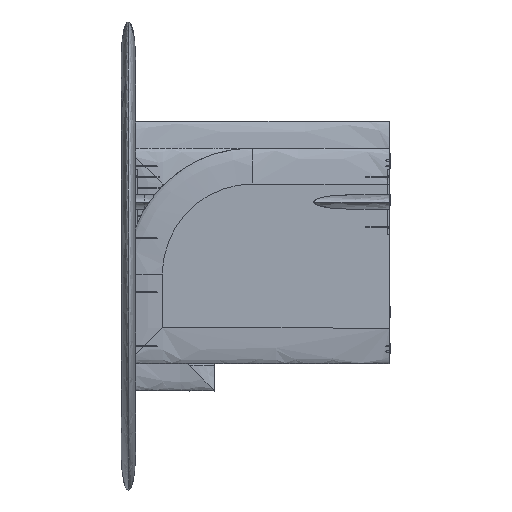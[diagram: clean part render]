
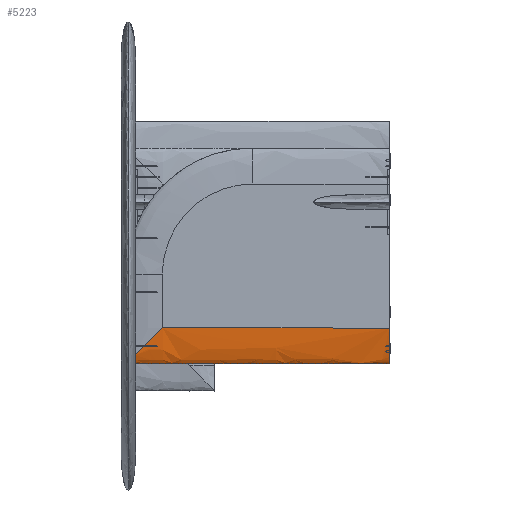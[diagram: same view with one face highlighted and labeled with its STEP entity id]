
A CAD part, left-side view. The second image highlights one B-rep face of the part: STEP entity #5223.
In plain terms, the highlighted free-form (B-spline) face has degree [3, 1] with [4, 2] control points.
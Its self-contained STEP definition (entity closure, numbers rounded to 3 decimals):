
#468 = CARTESIAN_POINT ( 'NONE',  ( 231.098, 689.464, -409.464 ) ) ;
#536 = CARTESIAN_POINT ( 'NONE',  ( 235., 705., -350. ) ) ;
#838 = VERTEX_POINT ( 'NONE', #9070 ) ;
#1027 = CARTESIAN_POINT ( 'NONE',  ( 234.403, 655.071, -375.071 ) ) ;
#1131 = CARTESIAN_POINT ( 'NONE',  ( 195.148, 642.537, -362.537 ) ) ;
#1180 = CARTESIAN_POINT ( 'NONE',  ( 195., 0., -350. ) ) ;
#1596 = EDGE_CURVE ( 'NONE', #20993, #16800, #16011, .T. ) ;
#1773 = CARTESIAN_POINT ( 'NONE',  ( 195.002, 631.568, -351.568 ) ) ;
#2212 = CARTESIAN_POINT ( 'NONE',  ( 235., 0., -550. ) ) ;
#2554 = CARTESIAN_POINT ( 'NONE',  ( 232.989, 673.85, -393.85 ) ) ;
#2936 = CARTESIAN_POINT ( 'NONE',  ( 201.771, 705., -425. ) ) ;
#3102 = CARTESIAN_POINT ( 'NONE',  ( 235., 630., -350. ) ) ;
#3208 = CARTESIAN_POINT ( 'NONE',  ( 195.015, 633.919, -353.919 ) ) ;
#3223 = EDGE_CURVE ( 'NONE', #16800, #20659, #9558, .T. ) ;
#3866 = CARTESIAN_POINT ( 'NONE',  ( 198.902, 689.464, -409.464 ) ) ;
#4286 = ORIENTED_EDGE ( 'NONE', *, *, #4849, .T. ) ;
#4399 = CARTESIAN_POINT ( 'NONE',  ( 201.771, 705., -425. ) ) ;
#4672 = CARTESIAN_POINT ( 'NONE',  ( 220.292, 705., -460. ) ) ;
#4849 = EDGE_CURVE ( 'NONE', #838, #19448, #7812, .T. ) ;
#5048 = DIRECTION ( 'NONE',  ( 0., -1., 0. ) ) ;
#5152 = CARTESIAN_POINT ( 'NONE',  ( 195.597, 655.071, -375.071 ) ) ;
#5223 = ADVANCED_FACE ( 'NONE', ( #23873 ), #25710, .T. ) ;
#5586 = CARTESIAN_POINT ( 'NONE',  ( 195.006, 632.743, -352.743 ) ) ;
#7631 = CARTESIAN_POINT ( 'NONE',  ( 195.237, 645.671, -365.671 ) ) ;
#7695 = ORIENTED_EDGE ( 'NONE', *, *, #1596, .F. ) ;
#7812 = LINE ( 'NONE', #24083, #22523 ) ;
#8591 = CARTESIAN_POINT ( 'NONE',  ( 235., 0., -350. ) ) ;
#8682 = CARTESIAN_POINT ( 'NONE',  ( 228.229, 705., -425. ) ) ;
#8837 = CARTESIAN_POINT ( 'NONE',  ( 195., 0., -550. ) ) ;
#8908 = CARTESIAN_POINT ( 'NONE',  ( 230.622, 692.58, -412.58 ) ) ;
#9070 = CARTESIAN_POINT ( 'NONE',  ( 235., 630., -350. ) ) ;
#9427 = CARTESIAN_POINT ( 'NONE',  ( 195., 630., -350. ) ) ;
#9448 = CARTESIAN_POINT ( 'NONE',  ( 235., 0., -350. ) ) ;
#9558 = LINE ( 'NONE', #12064, #20679 ) ;
#9701 = CARTESIAN_POINT ( 'NONE',  ( 201.07, 701.907, -421.907 ) ) ;
#11000 = CARTESIAN_POINT ( 'NONE',  ( 231.949, 683.225, -403.225 ) ) ;
#11382 = CARTESIAN_POINT ( 'NONE',  ( 199.378, 692.58, -412.58 ) ) ;
#11823 = CARTESIAN_POINT ( 'NONE',  ( 195., 0., -550. ) ) ;
#12064 = CARTESIAN_POINT ( 'NONE',  ( 195., 730.6, -350. ) ) ;
#12444 = ORIENTED_EDGE ( 'NONE', *, *, #22352, .F. ) ;
#12566 = ORIENTED_EDGE ( 'NONE', *, *, #15697, .F. ) ;
#12861 = ORIENTED_EDGE ( 'NONE', *, *, #3223, .F. ) ;
#13613 = CARTESIAN_POINT ( 'NONE',  ( 195., 630.394, -350.394 ) ) ;
#14679 = CARTESIAN_POINT ( 'NONE',  ( 228.229, 705., -425. ) ) ;
#14709 = EDGE_LOOP ( 'NONE', ( #7695, #25414, #12566, #4286, #12444, #12861 ) ) ;
#15641 =( BOUNDED_CURVE ( )  B_SPLINE_CURVE ( 3, ( #4399, #23564, #4672, #8682 ),
 .UNSPECIFIED., .F., .F. ) 
 B_SPLINE_CURVE_WITH_KNOTS ( ( 4, 4 ),
 ( 2.419, 3.864 ),
 .UNSPECIFIED. ) 
 CURVE ( )  GEOMETRIC_REPRESENTATION_ITEM ( )  RATIONAL_B_SPLINE_CURVE ( ( 1., 0.833, 0.833, 1. ) ) 
 REPRESENTATION_ITEM ( '' )  );
#15650 = VERTEX_POINT ( 'NONE', #14679 ) ;
#15697 = EDGE_CURVE ( 'NONE', #838, #15650, #27427, .T. ) ;
#15703 = CARTESIAN_POINT ( 'NONE',  ( 196.721, 670.723, -390.723 ) ) ;
#16011 = B_SPLINE_CURVE_WITH_KNOTS ( 'NONE', 3,
 ( #2936, #9701, #21958, #11382, #3866, #26533, #18190, #24620, #15703, #26670, #5152, #7631, #1131, #24326, #16110, #3208, #5586, #1773, #20011, #13613, #9427 ),
 .UNSPECIFIED., .F., .F.,
 ( 4, 2, 2, 2, 2, 2, 2, 2, 1, 2, 4 ),
 ( 0.039, 0.053, 0.066, 0.079, 0.093, 0.119, 0.133, 0.139, 0.143, 0.144, 0.146 ),
 .UNSPECIFIED. ) ;
#16110 = CARTESIAN_POINT ( 'NONE',  ( 195.037, 636.269, -356.269 ) ) ;
#16800 = VERTEX_POINT ( 'NONE', #26969 ) ;
#17188 = CARTESIAN_POINT ( 'NONE',  ( 195., 705., -550. ) ) ;
#17247 = CARTESIAN_POINT ( 'NONE',  ( 235., 636.269, -356.269 ) ) ;
#17387 = CARTESIAN_POINT ( 'NONE',  ( 229.537, 698.802, -418.802 ) ) ;
#18190 = CARTESIAN_POINT ( 'NONE',  ( 197.677, 680.101, -400.101 ) ) ;
#19302 = CARTESIAN_POINT ( 'NONE',  ( 195., 0., -350. ) ) ;
#19448 = VERTEX_POINT ( 'NONE', #25523 ) ;
#20011 = CARTESIAN_POINT ( 'NONE',  ( 195., 630.784, -350.784 ) ) ;
#20054 = CARTESIAN_POINT ( 'NONE',  ( 234.883, 642.537, -362.537 ) ) ;
#20418 = DIRECTION ( 'NONE',  ( 0., -1., 0. ) ) ;
#20659 = VERTEX_POINT ( 'NONE', #1180 ) ;
#20679 = VECTOR ( 'NONE', #20418, 1000. ) ;
#20993 = VERTEX_POINT ( 'NONE', #22373 ) ;
#21958 = CARTESIAN_POINT ( 'NONE',  ( 200.463, 698.802, -418.802 ) ) ;
#22352 = EDGE_CURVE ( 'NONE', #20659, #19448, #23283, .T. ) ;
#22373 = CARTESIAN_POINT ( 'NONE',  ( 201.771, 705., -425. ) ) ;
#22401 = CARTESIAN_POINT ( 'NONE',  ( 235., 0., -550. ) ) ;
#22523 = VECTOR ( 'NONE', #5048, 1000. ) ;
#23283 =( BOUNDED_CURVE ( )  B_SPLINE_CURVE ( 3, ( #26413, #11823, #22401, #9448 ),
 .UNSPECIFIED., .F., .F. ) 
 B_SPLINE_CURVE_WITH_KNOTS ( ( 4, 4 ),
 ( 1.571, 4.712 ),
 .UNSPECIFIED. ) 
 CURVE ( )  GEOMETRIC_REPRESENTATION_ITEM ( )  RATIONAL_B_SPLINE_CURVE ( ( 1., 0.333, 0.333, 1. ) ) 
 REPRESENTATION_ITEM ( '' )  );
#23564 = CARTESIAN_POINT ( 'NONE',  ( 209.708, 705., -460. ) ) ;
#23805 = CARTESIAN_POINT ( 'NONE',  ( 228.229, 705., -425. ) ) ;
#23873 = FACE_OUTER_BOUND ( 'NONE', #14709, .T. ) ;
#23938 = CARTESIAN_POINT ( 'NONE',  ( 232.323, 680.101, -400.101 ) ) ;
#24083 = CARTESIAN_POINT ( 'NONE',  ( 235., 730.6, -350. ) ) ;
#24326 = CARTESIAN_POINT ( 'NONE',  ( 195.059, 637.836, -357.836 ) ) ;
#24329 = EDGE_CURVE ( 'NONE', #20993, #15650, #15641, .T. ) ;
#24620 = CARTESIAN_POINT ( 'NONE',  ( 197.011, 673.85, -393.85 ) ) ;
#25414 = ORIENTED_EDGE ( 'NONE', *, *, #24329, .T. ) ;
#25523 = CARTESIAN_POINT ( 'NONE',  ( 235., 0., -350. ) ) ;
#25562 = CARTESIAN_POINT ( 'NONE',  ( 235., 705., -550. ) ) ;
#25683 = CARTESIAN_POINT ( 'NONE',  ( 195., 705., -350. ) ) ;
#25710 =( BOUNDED_SURFACE ( )  B_SPLINE_SURFACE ( 3, 1, ( 
 ( #25683, #19302 ),
 ( #17188, #8837 ),
 ( #25562, #2212 ),
 ( #536, #8591 ) ),
 .UNSPECIFIED., .F., .F., .T. ) 
 B_SPLINE_SURFACE_WITH_KNOTS ( ( 4, 4 ),
 ( 2, 2 ),
 ( 0., 1. ),
 ( 0., 1. ),
 .UNSPECIFIED. ) 
 GEOMETRIC_REPRESENTATION_ITEM ( )  RATIONAL_B_SPLINE_SURFACE ( (
 ( 1., 1.),
 ( 0.333, 0.333),
 ( 0.333, 0.333),
 ( 1., 1.) ) ) 
 REPRESENTATION_ITEM ( '' )  SURFACE ( )  );
#25745 = CARTESIAN_POINT ( 'NONE',  ( 234.041, 661.335, -381.335 ) ) ;
#25891 = CARTESIAN_POINT ( 'NONE',  ( 228.93, 701.907, -421.907 ) ) ;
#26158 = CARTESIAN_POINT ( 'NONE',  ( 233.279, 670.722, -390.722 ) ) ;
#26413 = CARTESIAN_POINT ( 'NONE',  ( 195., 0., -350. ) ) ;
#26533 = CARTESIAN_POINT ( 'NONE',  ( 198.051, 683.225, -403.225 ) ) ;
#26670 = CARTESIAN_POINT ( 'NONE',  ( 195.959, 661.335, -381.335 ) ) ;
#26969 = CARTESIAN_POINT ( 'NONE',  ( 195., 630., -350. ) ) ;
#27427 = B_SPLINE_CURVE_WITH_KNOTS ( 'NONE', 3,
 ( #3102, #17247, #20054, #1027, #25745, #26158, #2554, #23938, #11000, #468, #8908, #17387, #25891, #23805 ),
 .UNSPECIFIED., .F., .F.,
 ( 4, 2, 2, 2, 2, 2, 4 ),
 ( 0., 0.026, 0.053, 0.066, 0.08, 0.093, 0.106 ),
 .UNSPECIFIED. ) ;
